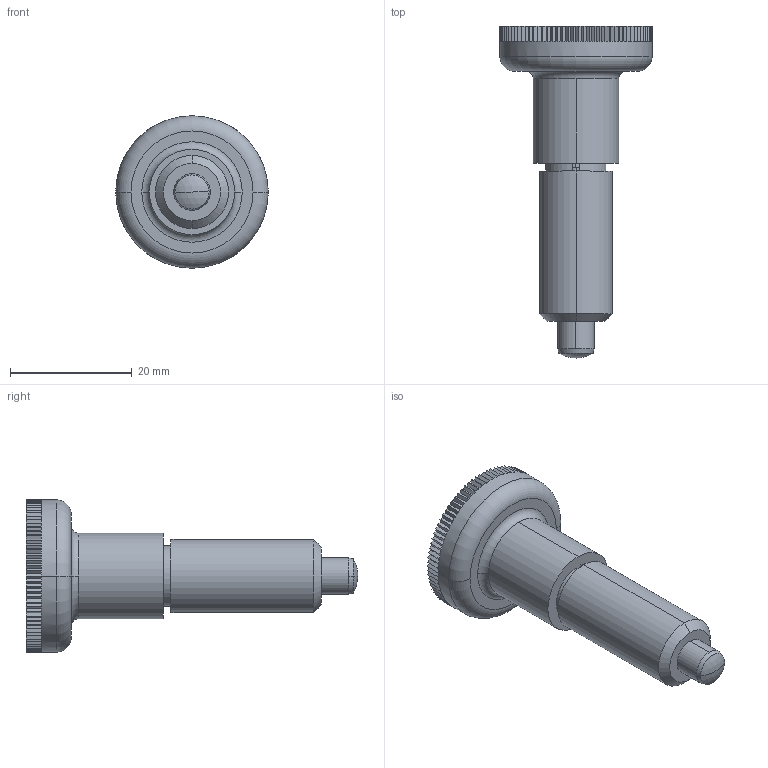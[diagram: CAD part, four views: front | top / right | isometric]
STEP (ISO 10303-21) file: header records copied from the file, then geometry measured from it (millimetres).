
FILE_DESCRIPTION (( 'STEP AP203' ), '1' );
FILE_NAME ('32742.W0706.step', '2011-04-26T13:37:03', ( 'Wixroyd' ), ( 'Wixroyd' ), 'SwSTEP 2.0', 'SolidWorks 2009', '' );
FILE_SCHEMA (( 'CONFIG_CONTROL_DESIGN' ));
Length unit declared in the file: millimetre
Products named in the file (5): Part2_3274.W446; Part3_3274.W446; 32742.W0706; Part1_3274.W446; Part4_3274.W446
Assembly tree (4 placements, depth 2):
  32742.W0706
    Part3_3274.W446
    Part1_3274.W446
    Part4_3274.W446
    Part2_3274.W446
Bounding box: 25 x 54.5 x 25 mm (x, y, z)
Volume: 8083.2 mm3; surface area: 5192 mm2
Topology: 4 solids, 4 shells, 414 faces, 1002 edges, 604 vertices
Faces by surface type: plane 368, cylinder 30, cone 8, torus 4, sphere 4
Entity records: 12329 total; most frequent: DIRECTION 2072, CARTESIAN_POINT 2027, ORIENTED_EDGE 2004, EDGE_CURVE 1002, VECTOR 774, LINE 774, AXIS2_PLACEMENT_3D 649, VERTEX_POINT 604
